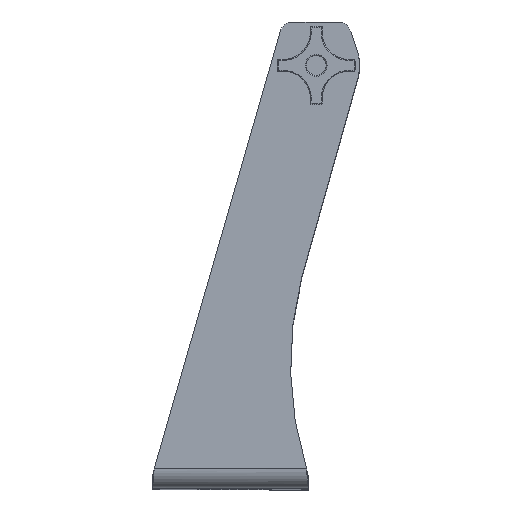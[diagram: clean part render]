
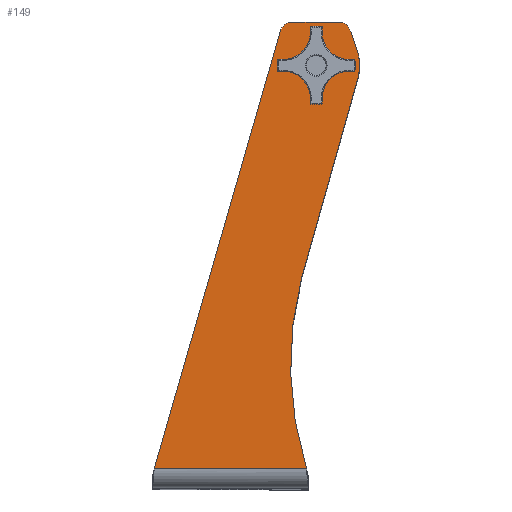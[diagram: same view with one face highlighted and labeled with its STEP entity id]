
A CAD part, top view. The second image highlights one B-rep face of the part: STEP entity #149.
In plain terms, the highlighted planar face has unit normal (0, 0, 1) as drawn and (1, 0, 0) by its records, which use the part's own axes.
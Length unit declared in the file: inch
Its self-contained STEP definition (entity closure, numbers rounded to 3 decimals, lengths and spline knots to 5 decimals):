
#52 = CARTESIAN_POINT ( 'NONE',  ( 12.188, 7.04347, 0.32736 ) ) ;
#112 = DIRECTION ( 'NONE',  ( -1., 0., 0. ) ) ;
#122 = ORIENTED_EDGE ( 'NONE', *, *, #8442, .T. ) ;
#149 = ADVANCED_FACE ( 'NONE', ( #10068, #8996 ), #7502, .T. ) ;
#170 = VERTEX_POINT ( 'NONE', #8025 ) ;
#523 = DIRECTION ( 'NONE',  ( 0., 0.951, 0.31 ) ) ;
#697 = VERTEX_POINT ( 'NONE', #8539 ) ;
#823 = LINE ( 'NONE', #5815, #7921 ) ;
#910 = VERTEX_POINT ( 'NONE', #8312 ) ;
#994 = EDGE_CURVE ( 'NONE', #170, #2917, #823, .T. ) ;
#1651 = CARTESIAN_POINT ( 'NONE',  ( 12.188, 12.176, -2.46533 ) ) ;
#1699 = ORIENTED_EDGE ( 'NONE', *, *, #994, .T. ) ;
#2054 = CARTESIAN_POINT ( 'NONE',  ( 12.188, 13.15965, -3.45894 ) ) ;
#2243 = DIRECTION ( 'NONE',  ( 1., 0., 0. ) ) ;
#2249 = DIRECTION ( 'NONE',  ( 1., 0., 0. ) ) ;
#2327 = EDGE_CURVE ( 'NONE', #7180, #6267, #3752, .T. ) ;
#2461 = EDGE_CURVE ( 'NONE', #6532, #7180, #2940, .T. ) ;
#2514 = CIRCLE ( 'NONE', #10284, 10. ) ;
#2516 = DIRECTION ( 'NONE',  ( 0., 1., 0. ) ) ;
#2729 = CARTESIAN_POINT ( 'NONE',  ( 12.188, 13.426, -3.10022 ) ) ;
#2917 = VERTEX_POINT ( 'NONE', #10701 ) ;
#2940 = CIRCLE ( 'NONE', #6266, 0.37474 ) ;
#3052 = CARTESIAN_POINT ( 'NONE',  ( 12.188, 2.05303, -7.08248 ) ) ;
#3239 = VERTEX_POINT ( 'NONE', #2729 ) ;
#3290 = VERTEX_POINT ( 'NONE', #5428 ) ;
#3304 = CARTESIAN_POINT ( 'NONE',  ( 12.188, 0.563, 2.1958 ) ) ;
#3324 = CARTESIAN_POINT ( 'NONE',  ( 12.188, 12.176, -2.46533 ) ) ;
#3356 = CARTESIAN_POINT ( 'NONE',  ( 12.188, 0.563, -11.72649 ) ) ;
#3483 = VECTOR ( 'NONE', #6912, 39.37008 ) ;
#3573 = ORIENTED_EDGE ( 'NONE', *, *, #4980, .F. ) ;
#3752 = LINE ( 'NONE', #52, #3483 ) ;
#3934 = CARTESIAN_POINT ( 'NONE',  ( 12.188, 13.05126, -3.10022 ) ) ;
#4178 = DIRECTION ( 'NONE',  ( 0., 1., 0. ) ) ;
#4636 = ORIENTED_EDGE ( 'NONE', *, *, #7706, .T. ) ;
#4716 = AXIS2_PLACEMENT_3D ( 'NONE', #7405, #2243, #8248 ) ;
#4731 = EDGE_LOOP ( 'NONE', ( #7991, #7456, #4636, #1699, #7748, #7215, #122, #8395, #7874 ) ) ;
#4791 = LINE ( 'NONE', #3356, #7073 ) ;
#4797 = DIRECTION ( 'NONE',  ( 0., 1., 0. ) ) ;
#4884 = AXIS2_PLACEMENT_3D ( 'NONE', #6029, #7650, #7676 ) ;
#4980 = EDGE_CURVE ( 'NONE', #697, #3290, #8719, .T. ) ;
#5209 = CARTESIAN_POINT ( 'NONE',  ( 12.188, 13.14147, -1.43079 ) ) ;
#5232 = CARTESIAN_POINT ( 'NONE',  ( 12.188, 3.56814, -11.72649 ) ) ;
#5358 = CIRCLE ( 'NONE', #4716, 1.25 ) ;
#5428 = CARTESIAN_POINT ( 'NONE',  ( 12.188, 11.9805, -2.46533 ) ) ;
#5618 = CARTESIAN_POINT ( 'NONE',  ( 12.188, 13.426, -11.72649 ) ) ;
#5685 = AXIS2_PLACEMENT_3D ( 'NONE', #3324, #9303, #4178 ) ;
#5727 = EDGE_LOOP ( 'NONE', ( #3573, #6251 ) ) ;
#5815 = CARTESIAN_POINT ( 'NONE',  ( 12.188, 6.27799, -2.10292 ) ) ;
#6028 = DIRECTION ( 'NONE',  ( 0., 0.963, -0.271 ) ) ;
#6029 = CARTESIAN_POINT ( 'NONE',  ( 12.188, 3.56814, -11.72649 ) ) ;
#6081 = EDGE_CURVE ( 'NONE', #6267, #6449, #4791, .T. ) ;
#6092 = DIRECTION ( 'NONE',  ( 0., 1., 0. ) ) ;
#6251 = ORIENTED_EDGE ( 'NONE', *, *, #6311, .F. ) ;
#6266 = AXIS2_PLACEMENT_3D ( 'NONE', #7408, #2249, #8253 ) ;
#6267 = VERTEX_POINT ( 'NONE', #3304 ) ;
#6311 = EDGE_CURVE ( 'NONE', #3290, #697, #9478, .T. ) ;
#6412 = LINE ( 'NONE', #5618, #10414 ) ;
#6449 = VERTEX_POINT ( 'NONE', #8909 ) ;
#6532 = VERTEX_POINT ( 'NONE', #9245 ) ;
#6875 = EDGE_CURVE ( 'NONE', #3239, #6532, #6412, .T. ) ;
#6912 = DIRECTION ( 'NONE',  ( 0., -0.961, 0.277 ) ) ;
#7073 = VECTOR ( 'NONE', #8482, 39.37008 ) ;
#7180 = VERTEX_POINT ( 'NONE', #5209 ) ;
#7215 = ORIENTED_EDGE ( 'NONE', *, *, #7362, .T. ) ;
#7362 = EDGE_CURVE ( 'NONE', #910, #9818, #8669, .T. ) ;
#7405 = CARTESIAN_POINT ( 'NONE',  ( 12.188, 12.176, -2.46533 ) ) ;
#7408 = CARTESIAN_POINT ( 'NONE',  ( 12.188, 13.05126, -1.79451 ) ) ;
#7456 = ORIENTED_EDGE ( 'NONE', *, *, #6081, .T. ) ;
#7502 = PLANE ( 'NONE',  #4884 ) ;
#7650 = DIRECTION ( 'NONE',  ( 1., 0., 0. ) ) ;
#7654 = DIRECTION ( 'NONE',  ( 1., 0., 0. ) ) ;
#7676 = DIRECTION ( 'NONE',  ( 0., 1., 0. ) ) ;
#7706 = EDGE_CURVE ( 'NONE', #6449, #170, #2514, .T. ) ;
#7748 = ORIENTED_EDGE ( 'NONE', *, *, #9946, .T. ) ;
#7874 = ORIENTED_EDGE ( 'NONE', *, *, #2461, .T. ) ;
#7921 = VECTOR ( 'NONE', #6028, 39.37008 ) ;
#7991 = ORIENTED_EDGE ( 'NONE', *, *, #2327, .T. ) ;
#8025 = CARTESIAN_POINT ( 'NONE',  ( 12.188, 6.07712, -2.04636 ) ) ;
#8248 = DIRECTION ( 'NONE',  ( 0., 1., 0. ) ) ;
#8253 = DIRECTION ( 'NONE',  ( 0., 1., 0. ) ) ;
#8312 = CARTESIAN_POINT ( 'NONE',  ( 12.188, 12.53753, -3.6619 ) ) ;
#8395 = ORIENTED_EDGE ( 'NONE', *, *, #6875, .T. ) ;
#8442 = EDGE_CURVE ( 'NONE', #9818, #3239, #10008, .T. ) ;
#8482 = DIRECTION ( 'NONE',  ( 0., 0., -1. ) ) ;
#8539 = CARTESIAN_POINT ( 'NONE',  ( 12.188, 12.3715, -2.46533 ) ) ;
#8669 = LINE ( 'NONE', #3052, #10927 ) ;
#8719 = CIRCLE ( 'NONE', #5685, 0.1955 ) ;
#8909 = CARTESIAN_POINT ( 'NONE',  ( 12.188, 0.563, -2.18872 ) ) ;
#8996 = FACE_OUTER_BOUND ( 'NONE', #4731, .T. ) ;
#9245 = CARTESIAN_POINT ( 'NONE',  ( 12.188, 13.426, -1.79451 ) ) ;
#9303 = DIRECTION ( 'NONE',  ( 1., 0., 0. ) ) ;
#9478 = CIRCLE ( 'NONE', #10560, 0.1955 ) ;
#9818 = VERTEX_POINT ( 'NONE', #2054 ) ;
#9915 = DIRECTION ( 'NONE',  ( 1., 0., 0. ) ) ;
#9946 = EDGE_CURVE ( 'NONE', #2917, #910, #5358, .T. ) ;
#10008 = CIRCLE ( 'NONE', #10365, 0.37474 ) ;
#10068 = FACE_BOUND ( 'NONE', #5727, .T. ) ;
#10284 = AXIS2_PLACEMENT_3D ( 'NONE', #5232, #112, #6092 ) ;
#10365 = AXIS2_PLACEMENT_3D ( 'NONE', #3934, #9915, #4797 ) ;
#10414 = VECTOR ( 'NONE', #10733, 39.37008 ) ;
#10560 = AXIS2_PLACEMENT_3D ( 'NONE', #1651, #7654, #2516 ) ;
#10701 = CARTESIAN_POINT ( 'NONE',  ( 12.188, 11.81447, -3.6619 ) ) ;
#10733 = DIRECTION ( 'NONE',  ( 0., 0., 1. ) ) ;
#10927 = VECTOR ( 'NONE', #523, 39.37008 ) ;
